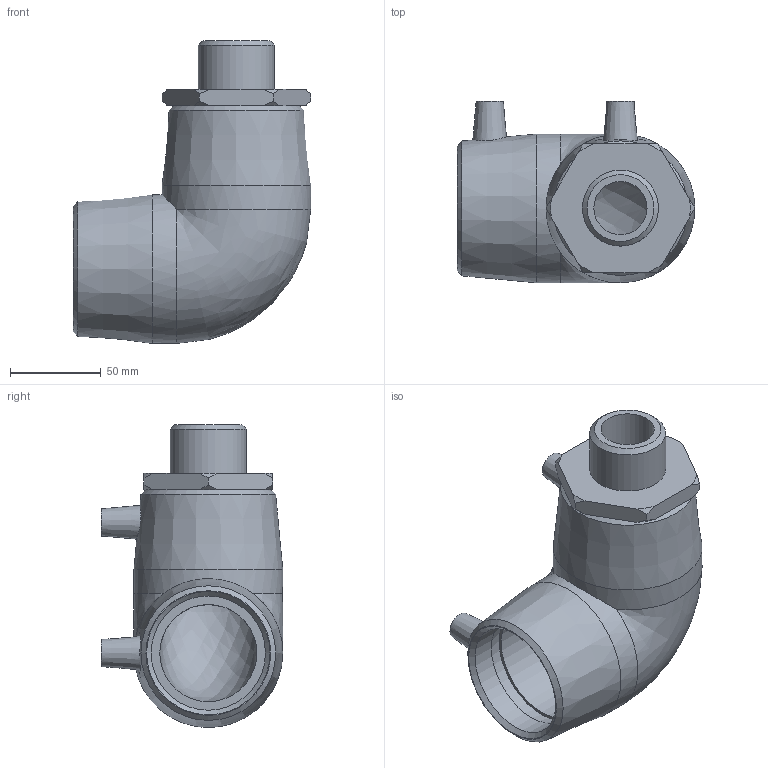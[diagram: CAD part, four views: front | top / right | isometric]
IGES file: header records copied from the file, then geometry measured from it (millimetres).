
Global section: file name: 492504063013.ipt; native system: Autodesk Inventor 2015; preprocessor: unknown; author: KIM; date: 20200202.122351; units: millimetre
Bounding box: 131 x 100 x 167 mm (x, y, z)
Volume: 487186.3 mm3; surface area: 94977.3 mm2
Topology: 1 solids, 2 shells, 59 faces, 143 edges, 96 vertices
Faces by surface type: plane 22, cone 19, revolution 10, cylinder 7, bspline 1
Full cylindrical faces by diameter (mm): 4 x2, 41.91 x1, 63 x2, 82 x2
